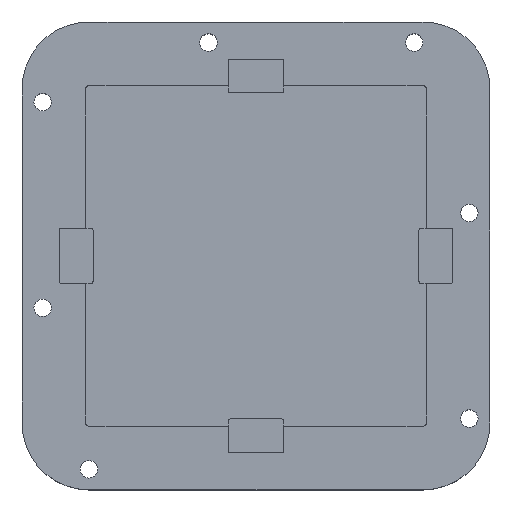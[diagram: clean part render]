
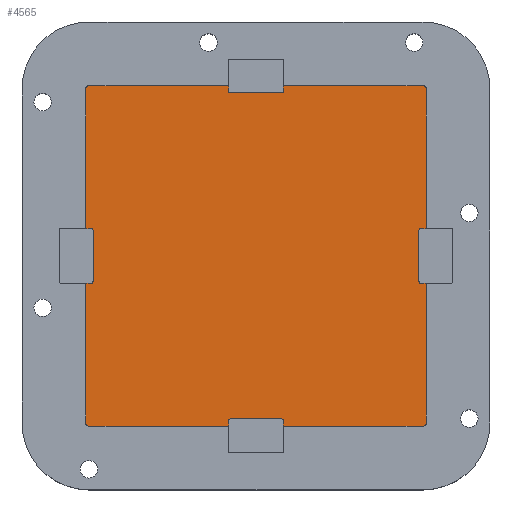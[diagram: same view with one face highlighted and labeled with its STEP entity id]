
A CAD part, top view. The second image highlights one B-rep face of the part: STEP entity #4565.
In plain terms, the highlighted planar face has unit normal (0, 0, 1).
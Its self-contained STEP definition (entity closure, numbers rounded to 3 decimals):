
#568 = CYLINDRICAL_SURFACE('',#569,0.6);
#569 = AXIS2_PLACEMENT_3D('',#570,#571,#572);
#570 = CARTESIAN_POINT('',(32.5,32.5,2.));
#571 = DIRECTION('',(-0.,-0.,-1.));
#572 = DIRECTION('',(1.,0.,0.));
#596 = PLANE('',#597);
#597 = AXIS2_PLACEMENT_3D('',#598,#599,#600);
#598 = CARTESIAN_POINT('',(33.1,-32.5,2.));
#599 = DIRECTION('',(-1.,0.,0.));
#600 = DIRECTION('',(0.,1.,0.));
#798 = CYLINDRICAL_SURFACE('',#799,0.6);
#799 = AXIS2_PLACEMENT_3D('',#800,#801,#802);
#800 = CARTESIAN_POINT('',(32.5,-32.5,2.));
#801 = DIRECTION('',(-0.,-0.,-1.));
#802 = DIRECTION('',(0.,-1.,0.));
#826 = PLANE('',#827);
#827 = AXIS2_PLACEMENT_3D('',#828,#829,#830);
#828 = CARTESIAN_POINT('',(-32.5,-33.1,2.));
#829 = DIRECTION('',(0.,1.,0.));
#830 = DIRECTION('',(1.,0.,0.));
#1028 = CYLINDRICAL_SURFACE('',#1029,0.6);
#1029 = AXIS2_PLACEMENT_3D('',#1030,#1031,#1032);
#1030 = CARTESIAN_POINT('',(-32.5,-32.5,2.));
#1031 = DIRECTION('',(-0.,-0.,-1.));
#1032 = DIRECTION('',(-1.,0.,0.));
#1056 = PLANE('',#1057);
#1057 = AXIS2_PLACEMENT_3D('',#1058,#1059,#1060);
#1058 = CARTESIAN_POINT('',(-33.1,32.5,2.));
#1059 = DIRECTION('',(1.,0.,0.));
#1060 = DIRECTION('',(0.,-1.,0.));
#1258 = CYLINDRICAL_SURFACE('',#1259,0.6);
#1259 = AXIS2_PLACEMENT_3D('',#1260,#1261,#1262);
#1260 = CARTESIAN_POINT('',(-32.5,32.5,2.));
#1261 = DIRECTION('',(-0.,-0.,-1.));
#1262 = DIRECTION('',(0.,1.,0.));
#1286 = PLANE('',#1287);
#1287 = AXIS2_PLACEMENT_3D('',#1288,#1289,#1290);
#1288 = CARTESIAN_POINT('',(32.5,33.1,2.));
#1289 = DIRECTION('',(0.,-1.,0.));
#1290 = DIRECTION('',(-1.,0.,0.));
#2237 = VERTEX_POINT('',#2238);
#2238 = CARTESIAN_POINT('',(33.1,32.5,2.));
#2261 = VERTEX_POINT('',#2262);
#2262 = CARTESIAN_POINT('',(32.5,33.1,2.));
#2283 = EDGE_CURVE('',#2237,#2261,#2284,.T.);
#2284 = SURFACE_CURVE('',#2285,(#2290,#2297),.PCURVE_S1.);
#2285 = CIRCLE('',#2286,0.6);
#2286 = AXIS2_PLACEMENT_3D('',#2287,#2288,#2289);
#2287 = CARTESIAN_POINT('',(32.5,32.5,2.));
#2288 = DIRECTION('',(-0.,0.,1.));
#2289 = DIRECTION('',(1.,0.,0.));
#2290 = PCURVE('',#568,#2291);
#2291 = DEFINITIONAL_REPRESENTATION('',(#2292),#2296);
#2292 = LINE('',#2293,#2294);
#2293 = CARTESIAN_POINT('',(-0.,0.));
#2294 = VECTOR('',#2295,1.);
#2295 = DIRECTION('',(-1.,0.));
#2296 = ( GEOMETRIC_REPRESENTATION_CONTEXT(2) 
PARAMETRIC_REPRESENTATION_CONTEXT() REPRESENTATION_CONTEXT('2D SPACE',''
  ) );
#2297 = PCURVE('',#2298,#2303);
#2298 = PLANE('',#2299);
#2299 = AXIS2_PLACEMENT_3D('',#2300,#2301,#2302);
#2300 = CARTESIAN_POINT('',(0.,0.,2.));
#2301 = DIRECTION('',(0.,0.,1.));
#2302 = DIRECTION('',(1.,0.,0.));
#2303 = DEFINITIONAL_REPRESENTATION('',(#2304),#2308);
#2304 = CIRCLE('',#2305,0.6);
#2305 = AXIS2_PLACEMENT_2D('',#2306,#2307);
#2306 = CARTESIAN_POINT('',(32.5,32.5));
#2307 = DIRECTION('',(1.,0.));
#2308 = ( GEOMETRIC_REPRESENTATION_CONTEXT(2) 
PARAMETRIC_REPRESENTATION_CONTEXT() REPRESENTATION_CONTEXT('2D SPACE',''
  ) );
#2313 = EDGE_CURVE('',#2314,#2237,#2316,.T.);
#2314 = VERTEX_POINT('',#2315);
#2315 = CARTESIAN_POINT('',(33.1,-32.5,2.));
#2316 = SURFACE_CURVE('',#2317,(#2321,#2328),.PCURVE_S1.);
#2317 = LINE('',#2318,#2319);
#2318 = CARTESIAN_POINT('',(33.1,-32.5,2.));
#2319 = VECTOR('',#2320,1.);
#2320 = DIRECTION('',(0.,1.,0.));
#2321 = PCURVE('',#596,#2322);
#2322 = DEFINITIONAL_REPRESENTATION('',(#2323),#2327);
#2323 = LINE('',#2324,#2325);
#2324 = CARTESIAN_POINT('',(0.,0.));
#2325 = VECTOR('',#2326,1.);
#2326 = DIRECTION('',(1.,0.));
#2327 = ( GEOMETRIC_REPRESENTATION_CONTEXT(2) 
PARAMETRIC_REPRESENTATION_CONTEXT() REPRESENTATION_CONTEXT('2D SPACE',''
  ) );
#2328 = PCURVE('',#2298,#2329);
#2329 = DEFINITIONAL_REPRESENTATION('',(#2330),#2334);
#2330 = LINE('',#2331,#2332);
#2331 = CARTESIAN_POINT('',(33.1,-32.5));
#2332 = VECTOR('',#2333,1.);
#2333 = DIRECTION('',(0.,1.));
#2334 = ( GEOMETRIC_REPRESENTATION_CONTEXT(2) 
PARAMETRIC_REPRESENTATION_CONTEXT() REPRESENTATION_CONTEXT('2D SPACE',''
  ) );
#2491 = EDGE_CURVE('',#2261,#2492,#2494,.T.);
#2492 = VERTEX_POINT('',#2493);
#2493 = CARTESIAN_POINT('',(-32.5,33.1,2.));
#2494 = SURFACE_CURVE('',#2495,(#2499,#2506),.PCURVE_S1.);
#2495 = LINE('',#2496,#2497);
#2496 = CARTESIAN_POINT('',(32.5,33.1,2.));
#2497 = VECTOR('',#2498,1.);
#2498 = DIRECTION('',(-1.,0.,0.));
#2499 = PCURVE('',#1286,#2500);
#2500 = DEFINITIONAL_REPRESENTATION('',(#2501),#2505);
#2501 = LINE('',#2502,#2503);
#2502 = CARTESIAN_POINT('',(0.,-0.));
#2503 = VECTOR('',#2504,1.);
#2504 = DIRECTION('',(1.,0.));
#2505 = ( GEOMETRIC_REPRESENTATION_CONTEXT(2) 
PARAMETRIC_REPRESENTATION_CONTEXT() REPRESENTATION_CONTEXT('2D SPACE',''
  ) );
#2506 = PCURVE('',#2298,#2507);
#2507 = DEFINITIONAL_REPRESENTATION('',(#2508),#2512);
#2508 = LINE('',#2509,#2510);
#2509 = CARTESIAN_POINT('',(32.5,33.1));
#2510 = VECTOR('',#2511,1.);
#2511 = DIRECTION('',(-1.,0.));
#2512 = ( GEOMETRIC_REPRESENTATION_CONTEXT(2) 
PARAMETRIC_REPRESENTATION_CONTEXT() REPRESENTATION_CONTEXT('2D SPACE',''
  ) );
#3130 = VERTEX_POINT('',#3131);
#3131 = CARTESIAN_POINT('',(32.5,-33.1,2.));
#3154 = EDGE_CURVE('',#3130,#2314,#3155,.T.);
#3155 = SURFACE_CURVE('',#3156,(#3161,#3168),.PCURVE_S1.);
#3156 = CIRCLE('',#3157,0.6);
#3157 = AXIS2_PLACEMENT_3D('',#3158,#3159,#3160);
#3158 = CARTESIAN_POINT('',(32.5,-32.5,2.));
#3159 = DIRECTION('',(0.,0.,1.));
#3160 = DIRECTION('',(0.,-1.,0.));
#3161 = PCURVE('',#798,#3162);
#3162 = DEFINITIONAL_REPRESENTATION('',(#3163),#3167);
#3163 = LINE('',#3164,#3165);
#3164 = CARTESIAN_POINT('',(-0.,0.));
#3165 = VECTOR('',#3166,1.);
#3166 = DIRECTION('',(-1.,0.));
#3167 = ( GEOMETRIC_REPRESENTATION_CONTEXT(2) 
PARAMETRIC_REPRESENTATION_CONTEXT() REPRESENTATION_CONTEXT('2D SPACE',''
  ) );
#3168 = PCURVE('',#2298,#3169);
#3169 = DEFINITIONAL_REPRESENTATION('',(#3170),#3174);
#3170 = CIRCLE('',#3171,0.6);
#3171 = AXIS2_PLACEMENT_2D('',#3172,#3173);
#3172 = CARTESIAN_POINT('',(32.5,-32.5));
#3173 = DIRECTION('',(0.,-1.));
#3174 = ( GEOMETRIC_REPRESENTATION_CONTEXT(2) 
PARAMETRIC_REPRESENTATION_CONTEXT() REPRESENTATION_CONTEXT('2D SPACE',''
  ) );
#3182 = VERTEX_POINT('',#3183);
#3183 = CARTESIAN_POINT('',(-33.1,32.5,2.));
#3204 = EDGE_CURVE('',#2492,#3182,#3205,.T.);
#3205 = SURFACE_CURVE('',#3206,(#3211,#3218),.PCURVE_S1.);
#3206 = CIRCLE('',#3207,0.6);
#3207 = AXIS2_PLACEMENT_3D('',#3208,#3209,#3210);
#3208 = CARTESIAN_POINT('',(-32.5,32.5,2.));
#3209 = DIRECTION('',(0.,-0.,1.));
#3210 = DIRECTION('',(0.,1.,0.));
#3211 = PCURVE('',#1258,#3212);
#3212 = DEFINITIONAL_REPRESENTATION('',(#3213),#3217);
#3213 = LINE('',#3214,#3215);
#3214 = CARTESIAN_POINT('',(-0.,0.));
#3215 = VECTOR('',#3216,1.);
#3216 = DIRECTION('',(-1.,0.));
#3217 = ( GEOMETRIC_REPRESENTATION_CONTEXT(2) 
PARAMETRIC_REPRESENTATION_CONTEXT() REPRESENTATION_CONTEXT('2D SPACE',''
  ) );
#3218 = PCURVE('',#2298,#3219);
#3219 = DEFINITIONAL_REPRESENTATION('',(#3220),#3224);
#3220 = CIRCLE('',#3221,0.6);
#3221 = AXIS2_PLACEMENT_2D('',#3222,#3223);
#3222 = CARTESIAN_POINT('',(-32.5,32.5));
#3223 = DIRECTION('',(0.,1.));
#3224 = ( GEOMETRIC_REPRESENTATION_CONTEXT(2) 
PARAMETRIC_REPRESENTATION_CONTEXT() REPRESENTATION_CONTEXT('2D SPACE',''
  ) );
#3229 = EDGE_CURVE('',#3230,#3130,#3232,.T.);
#3230 = VERTEX_POINT('',#3231);
#3231 = CARTESIAN_POINT('',(-32.5,-33.1,2.));
#3232 = SURFACE_CURVE('',#3233,(#3237,#3244),.PCURVE_S1.);
#3233 = LINE('',#3234,#3235);
#3234 = CARTESIAN_POINT('',(-32.5,-33.1,2.));
#3235 = VECTOR('',#3236,1.);
#3236 = DIRECTION('',(1.,0.,0.));
#3237 = PCURVE('',#826,#3238);
#3238 = DEFINITIONAL_REPRESENTATION('',(#3239),#3243);
#3239 = LINE('',#3240,#3241);
#3240 = CARTESIAN_POINT('',(0.,0.));
#3241 = VECTOR('',#3242,1.);
#3242 = DIRECTION('',(1.,0.));
#3243 = ( GEOMETRIC_REPRESENTATION_CONTEXT(2) 
PARAMETRIC_REPRESENTATION_CONTEXT() REPRESENTATION_CONTEXT('2D SPACE',''
  ) );
#3244 = PCURVE('',#2298,#3245);
#3245 = DEFINITIONAL_REPRESENTATION('',(#3246),#3250);
#3246 = LINE('',#3247,#3248);
#3247 = CARTESIAN_POINT('',(-32.5,-33.1));
#3248 = VECTOR('',#3249,1.);
#3249 = DIRECTION('',(1.,0.));
#3250 = ( GEOMETRIC_REPRESENTATION_CONTEXT(2) 
PARAMETRIC_REPRESENTATION_CONTEXT() REPRESENTATION_CONTEXT('2D SPACE',''
  ) );
#3407 = EDGE_CURVE('',#3182,#3408,#3410,.T.);
#3408 = VERTEX_POINT('',#3409);
#3409 = CARTESIAN_POINT('',(-33.1,-32.5,2.));
#3410 = SURFACE_CURVE('',#3411,(#3415,#3422),.PCURVE_S1.);
#3411 = LINE('',#3412,#3413);
#3412 = CARTESIAN_POINT('',(-33.1,32.5,2.));
#3413 = VECTOR('',#3414,1.);
#3414 = DIRECTION('',(0.,-1.,0.));
#3415 = PCURVE('',#1056,#3416);
#3416 = DEFINITIONAL_REPRESENTATION('',(#3417),#3421);
#3417 = LINE('',#3418,#3419);
#3418 = CARTESIAN_POINT('',(0.,0.));
#3419 = VECTOR('',#3420,1.);
#3420 = DIRECTION('',(1.,0.));
#3421 = ( GEOMETRIC_REPRESENTATION_CONTEXT(2) 
PARAMETRIC_REPRESENTATION_CONTEXT() REPRESENTATION_CONTEXT('2D SPACE',''
  ) );
#3422 = PCURVE('',#2298,#3423);
#3423 = DEFINITIONAL_REPRESENTATION('',(#3424),#3428);
#3424 = LINE('',#3425,#3426);
#3425 = CARTESIAN_POINT('',(-33.1,32.5));
#3426 = VECTOR('',#3427,1.);
#3427 = DIRECTION('',(0.,-1.));
#3428 = ( GEOMETRIC_REPRESENTATION_CONTEXT(2) 
PARAMETRIC_REPRESENTATION_CONTEXT() REPRESENTATION_CONTEXT('2D SPACE',''
  ) );
#4048 = EDGE_CURVE('',#3408,#3230,#4049,.T.);
#4049 = SURFACE_CURVE('',#4050,(#4055,#4062),.PCURVE_S1.);
#4050 = CIRCLE('',#4051,0.6);
#4051 = AXIS2_PLACEMENT_3D('',#4052,#4053,#4054);
#4052 = CARTESIAN_POINT('',(-32.5,-32.5,2.));
#4053 = DIRECTION('',(0.,0.,1.));
#4054 = DIRECTION('',(-1.,0.,0.));
#4055 = PCURVE('',#1028,#4056);
#4056 = DEFINITIONAL_REPRESENTATION('',(#4057),#4061);
#4057 = LINE('',#4058,#4059);
#4058 = CARTESIAN_POINT('',(-0.,0.));
#4059 = VECTOR('',#4060,1.);
#4060 = DIRECTION('',(-1.,0.));
#4061 = ( GEOMETRIC_REPRESENTATION_CONTEXT(2) 
PARAMETRIC_REPRESENTATION_CONTEXT() REPRESENTATION_CONTEXT('2D SPACE',''
  ) );
#4062 = PCURVE('',#2298,#4063);
#4063 = DEFINITIONAL_REPRESENTATION('',(#4064),#4068);
#4064 = CIRCLE('',#4065,0.6);
#4065 = AXIS2_PLACEMENT_2D('',#4066,#4067);
#4066 = CARTESIAN_POINT('',(-32.5,-32.5));
#4067 = DIRECTION('',(-1.,0.));
#4068 = ( GEOMETRIC_REPRESENTATION_CONTEXT(2) 
PARAMETRIC_REPRESENTATION_CONTEXT() REPRESENTATION_CONTEXT('2D SPACE',''
  ) );
#4565 = ADVANCED_FACE('',(#4566),#2298,.T.);
#4566 = FACE_BOUND('',#4567,.T.);
#4567 = EDGE_LOOP('',(#4568,#4569,#4570,#4571,#4572,#4573,#4574,#4575));
#4568 = ORIENTED_EDGE('',*,*,#4048,.T.);
#4569 = ORIENTED_EDGE('',*,*,#3229,.T.);
#4570 = ORIENTED_EDGE('',*,*,#3154,.T.);
#4571 = ORIENTED_EDGE('',*,*,#2313,.T.);
#4572 = ORIENTED_EDGE('',*,*,#2283,.T.);
#4573 = ORIENTED_EDGE('',*,*,#2491,.T.);
#4574 = ORIENTED_EDGE('',*,*,#3204,.T.);
#4575 = ORIENTED_EDGE('',*,*,#3407,.T.);
